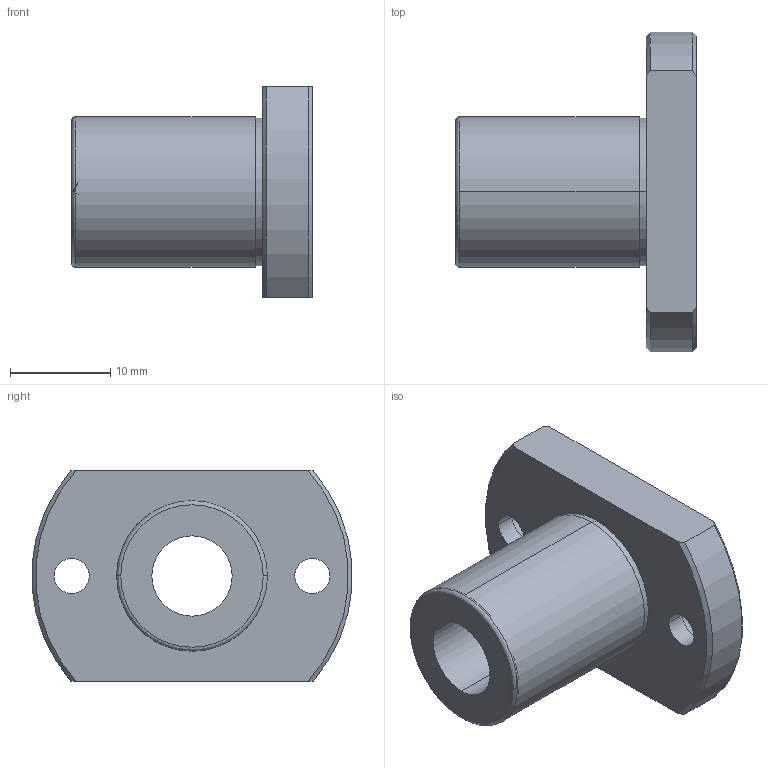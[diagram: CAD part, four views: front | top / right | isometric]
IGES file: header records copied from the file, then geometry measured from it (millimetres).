
Start section: 3D InterOp IGES (Version 21 0 1), Spatial Corp. Copyright (c) 1999-2007.
Global section: file name: NFEO-8VUU.igs; native system: Spatial Corp.; preprocessor: 3D InterOp GENERIC/IGES 3.0; author: Noname; organization: Noname; date: 20220307.120740; units: millimetre
Bounding box: 24 x 31.9 x 21 mm (x, y, z)
Surface area: 3377.8 mm2 (no closed solid volume)
Topology: 0 solids, 0 shells, 30 faces, 150 edges, 148 vertices
Faces by surface type: revolution 22, extrusion 8
